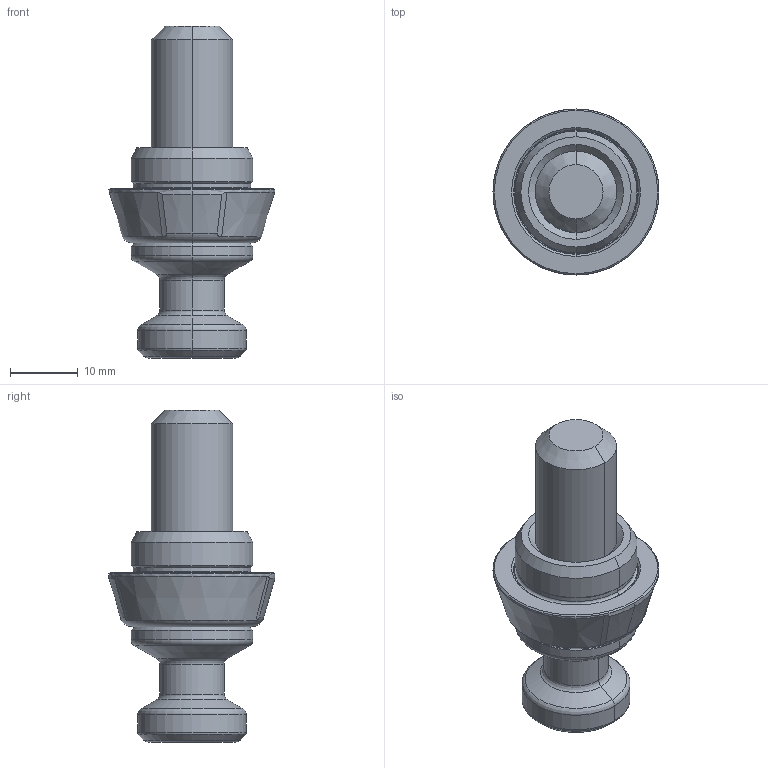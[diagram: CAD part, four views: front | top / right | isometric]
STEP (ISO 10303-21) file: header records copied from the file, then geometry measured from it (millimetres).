
FILE_DESCRIPTION (( 'STEP AP203' ), '1' );
FILE_NAME ('cp155-12001d.STEP', '2021-10-25T23:35:55', ( '' ), ( '' ), 'SwSTEP 2.0', 'SolidWorks 2020', '' );
FILE_SCHEMA (( 'CONFIG_CONTROL_DESIGN' ));
Length unit declared in the file: millimetre
Products named in the file (1): cp155-12001d
Bounding box: 24.5 x 24.5 x 49 mm (x, y, z)
Volume: 9052.5 mm3; surface area: 3253.1 mm2
Topology: 1 solids, 1 shells, 74 faces, 161 edges, 94 vertices
Faces by surface type: cone 27, cylinder 18, torus 16, plane 13
Entity records: 2162 total; most frequent: CARTESIAN_POINT 442, DIRECTION 379, ORIENTED_EDGE 322, AXIS2_PLACEMENT_3D 163, EDGE_CURVE 161, VERTEX_POINT 94, CIRCLE 88, EDGE_LOOP 79
